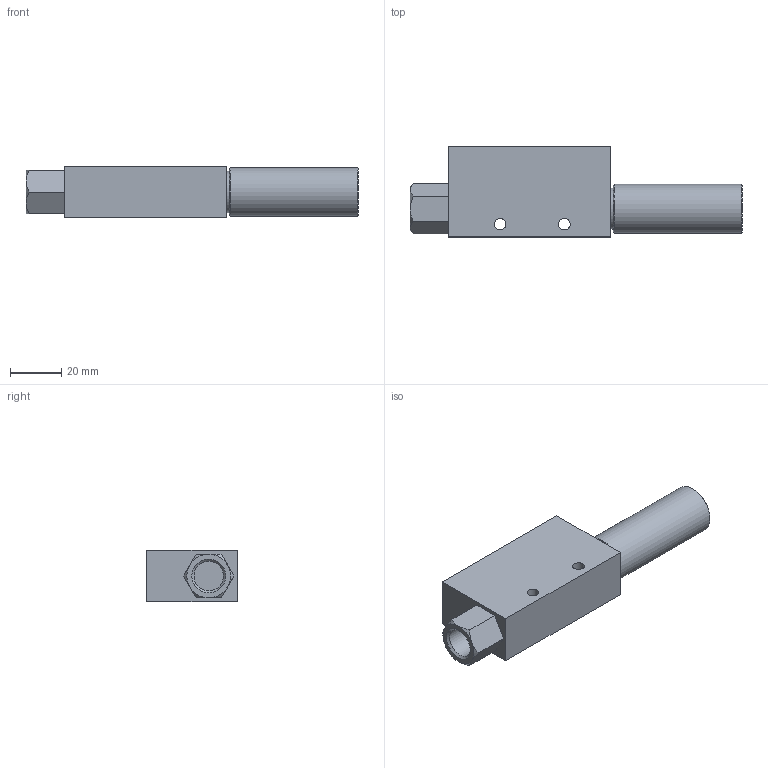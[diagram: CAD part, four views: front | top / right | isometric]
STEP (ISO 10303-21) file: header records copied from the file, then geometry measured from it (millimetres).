
FILE_DESCRIPTION (( 'STEP AP214' ), '1' );
FILE_NAME ('V-CV15HS.STEP', '2025-02-04T12:43:28', ( '' ), ( '' ), 'SwSTEP 2.0', 'SolidWorks 2018', '' );
FILE_SCHEMA (( 'AUTOMOTIVE_DESIGN' ));
Length unit declared in the file: millimetre
Products named in the file (1): V-CV15HS
Bounding box: 129 x 35 x 20 mm (x, y, z)
Volume: 58013.8 mm3; surface area: 14190.4 mm2
Topology: 1 solids, 1 shells, 37 faces, 75 edges, 46 vertices
Faces by surface type: plane 18, cone 12, cylinder 7
Full cylindrical faces by diameter (mm): 4.5 x2, 8.445 x1, 11.445 x2, 16 x1, 19 x1
Entity records: 1110 total; most frequent: CARTESIAN_POINT 344, DIRECTION 152, ORIENTED_EDGE 124, AXIS2_PLACEMENT_3D 64, EDGE_CURVE 62, EDGE_LOOP 60, VERTEX_POINT 46, FACE_OUTER_BOUND 44
